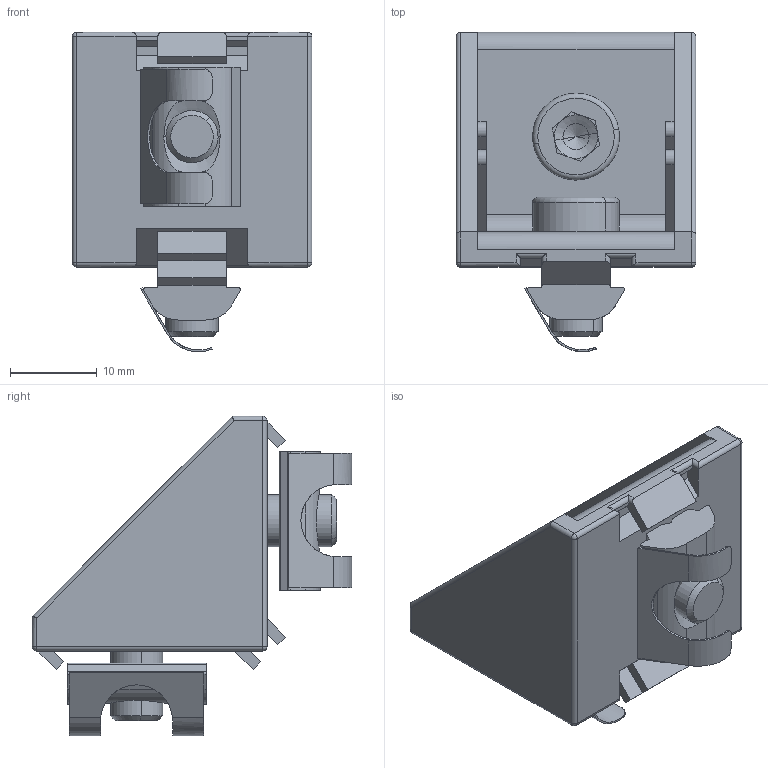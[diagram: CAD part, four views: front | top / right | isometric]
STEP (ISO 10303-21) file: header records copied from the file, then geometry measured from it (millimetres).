
FILE_DESCRIPTION (( 'STEP AP214' ), '1' );
FILE_NAME ('1.3020 Kulma 30.STEP', '2024-01-15T08:59:38', ( '' ), ( '' ), 'SwSTEP 2.0', 'SolidWorks 2024', '' );
FILE_SCHEMA (( 'AUTOMOTIVE_DESIGN' ));
Length unit declared in the file: millimetre
Products named in the file (1): 1.3020 Kulma 30
Bounding box: 27.6 x 36.74 x 36.74 mm (x, y, z)
Volume: 8786.4 mm3; surface area: 7179.6 mm2
Topology: 5 solids, 5 shells, 285 faces, 741 edges, 458 vertices
Faces by surface type: plane 147, cylinder 106, cone 16, torus 8, sphere 6, bspline 2
Entity records: 11993 total; most frequent: CARTESIAN_POINT 1987, ORIENTED_EDGE 1462, DIRECTION 1379, EDGE_CURVE 731, LINE 463, VECTOR 463, AXIS2_PLACEMENT_3D 458, VERTEX_POINT 458
